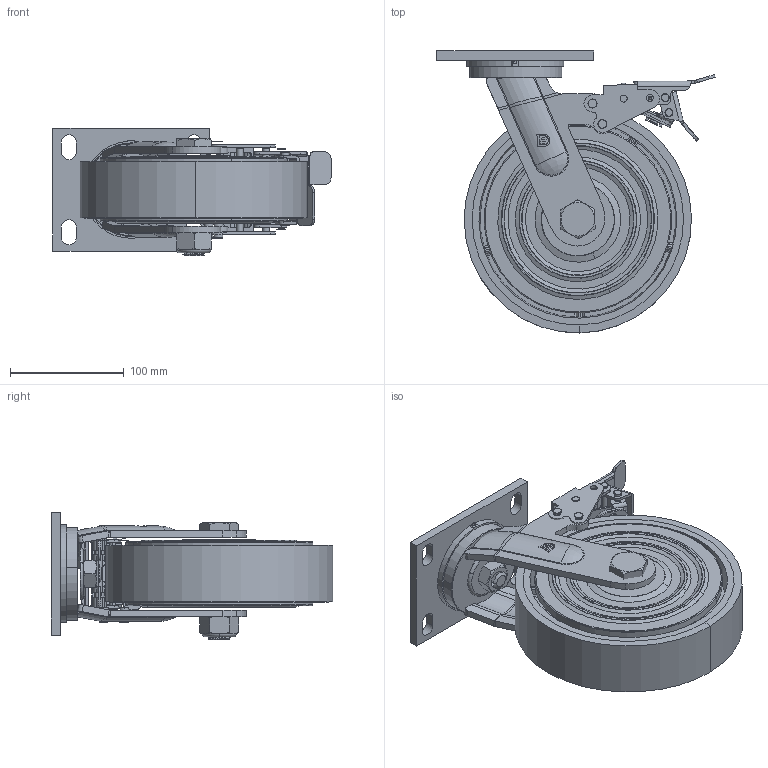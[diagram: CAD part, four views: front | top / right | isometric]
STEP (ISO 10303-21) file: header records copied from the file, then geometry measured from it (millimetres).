
FILE_DESCRIPTION((''),'2;1');
FILE_NAME('PRT0032','2026-01-26T10:26:09',('Administrator'),(''),'CREO PARAMETRIC BY PTC INC, 2022124','CREO PARAMETRIC BY PTC INC, 2022124','');
FILE_SCHEMA(('AUTOMOTIVE_DESIGN { 1 0 10303 214 1 1 1 1 }'));
Length unit declared in the file: millimetre
Products named in the file (1): PRT0032
Bounding box: 244.75 x 247.98 x 112 mm (x, y, z)
Surface area: 357211.6 mm2 (no closed solid volume)
Topology: 0 solids, 79 shells, 704 faces, 2369 edges, 1703 vertices
Faces by surface type: plane 261, cylinder 260, cone 84, torus 72, bspline 22, sphere 4, extrusion 1
Entity records: 34061 total; most frequent: CARTESIAN_POINT 8787, DIRECTION 4263, ORIENTED_EDGE 3805, EDGE_CURVE 2345, VERTEX_POINT 1703, AXIS2_PLACEMENT_3D 1592, VECTOR 1076, LINE 1075
